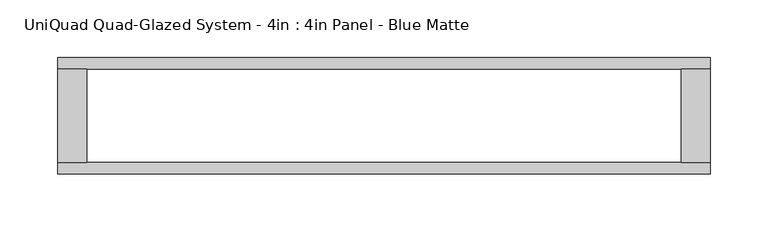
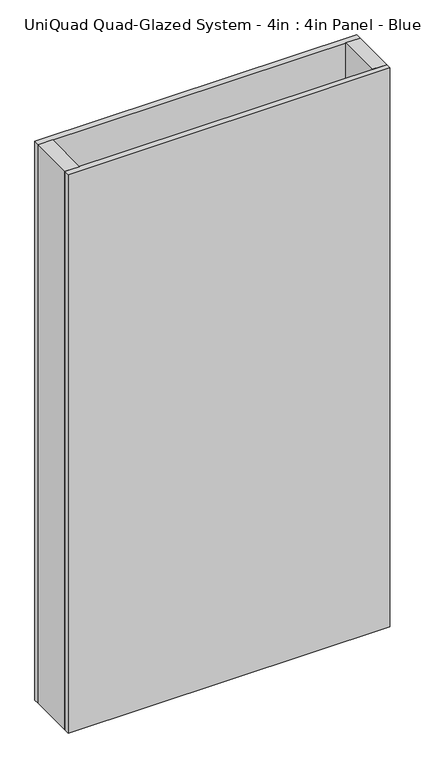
"""IFC4 building model written with IfcOpenShell, lengths in millimetres: plate geometry, UniQuad Quad-Glazed System - 4in : 4in Panel - Blue Matte."""

from ifc_helpers import new_model, si_unit, origin, origin_with_axes, place, context, project, spatial, polyline, outline, extrude, source, transform, mapped, element, save


def uniquad_quad_glazed_system_4in_4in_panel_blue_matte_3aa89edd(model_context):
    return source(origin(), model_context, "Body", "SweptSolid", [
        extrude(outline(polyline([(-283.7743126, 40.7924), (-258.3743126, 40.7924), (-258.3743126, -40.7924), (-283.7743126, -40.7924), (-283.7743126, 40.7924)])), origin_with_axes(), (0.0, 0.0, 1.0), 1041.4),
        extrude(outline(polyline([(283.7743126, 40.7924), (283.7743126, -40.7924), (258.3743126, -40.7924), (258.3743126, 40.7924), (283.7743126, 40.7924)])), origin_with_axes(), (0.0, 0.0, 1.0), 1041.4),
        extrude(outline(polyline([(283.7743126, -40.7924), (283.7743126, -50.8), (-283.7743126, -50.8), (-283.7743126, -40.7924), (283.7743126, -40.7924)])), origin_with_axes(), (0.0, 0.0, 1.0), 1041.4),
        extrude(outline(polyline([(283.7743126, 50.8), (283.7743126, 40.7924), (-283.7743126, 40.7924), (-283.7743126, 50.8), (283.7743126, 50.8)])), origin_with_axes(), (0.0, 0.0, 1.0), 1041.4),
    ])


if __name__ == "__main__":
    model = new_model("IFC4")
    model_context = context("Model", 3, world=origin())
    ifc_project = project(units=[si_unit("LENGTHUNIT", "METRE", prefix="MILLI")], contexts=[model_context])
    site = spatial("IfcSite", under=ifc_project)
    building = spatial("IfcBuilding", under=site)
    placement = place(None, origin())
    uniquad_quad_glazed_system_4in_4in_panel_blue_matte_shape = uniquad_quad_glazed_system_4in_4in_panel_blue_matte_3aa89edd(model_context)
    element("IfcPlate", 1, ObjectType="UniQuad Quad-Glazed System - 4in : 4in Panel - Blue Matte", at=placement, inside=building, context=model_context, shape_type="MappedRepresentation", body=[
        mapped(uniquad_quad_glazed_system_4in_4in_panel_blue_matte_shape, transform((0.0, 0.0, 0.0), x_axis=(1.0, 0.0, 0.0), y_axis=(0.0, 1.0, 0.0), z_axis=(0.0, 0.0, 1.0))),
    ])
    save(model, "model.ifc")
